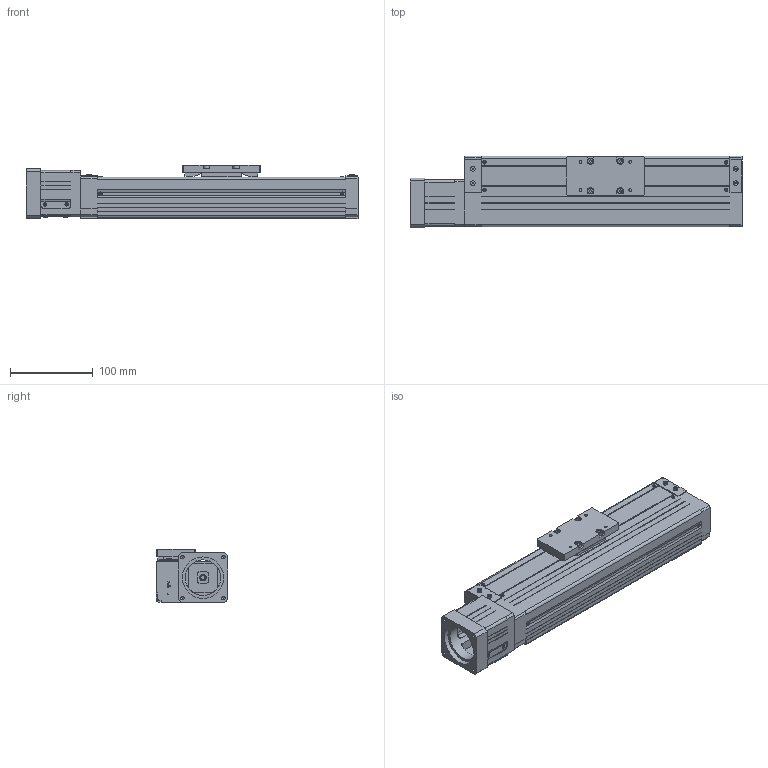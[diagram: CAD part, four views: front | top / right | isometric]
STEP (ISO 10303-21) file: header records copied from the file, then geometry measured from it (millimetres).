
FILE_DESCRIPTION((''),'2;1');
FILE_NAME('D:\製品 (図面)\カタログ用3D\SU部品\SU85×65\ダウンロード用\SU85×65-MB60\SU85×65-200-MB60.stp','2011-07-01T17:41:29',('Tsuchiya'),(''),'Autodesk Inventor 10','Autodesk Inventor 10','');
FILE_SCHEMA(('AUTOMOTIVE_DESIGN { 1 0 10303 214 1 1 1 1 }'));
Length unit declared in the file: millimetre
Products named in the file (3): SU85×65-200-MB60; SU85×65-200-MB601; SU85×65-200-MB602
Assembly tree (2 placements, depth 2):
  SU85×65-200-MB60
    SU85×65-200-MB601
    SU85×65-200-MB602
Bounding box: 401 x 86.45 x 65 mm (x, y, z)
Volume: 812970.8 mm3; surface area: 259128.3 mm2
Topology: 8 solids, 8 shells, 833 faces, 2214 edges, 1434 vertices
Faces by surface type: plane 699, cylinder 100, cone 18, torus 12, bspline 4
Full cylindrical faces by diameter (mm): 3.242 x4, 4 x4, 4.134 x12, 4.5 x4, 5.5 x4, 6 x1, 7 x4, 8 x1, 11.5 x1, 12 x1, 13 x1, 43 x1, 50 x1
Entity records: 25598 total; most frequent: CARTESIAN_POINT 5159, ORIENTED_EDGE 4222, DIRECTION 4000, EDGE_CURVE 2111, VECTOR 1714, LINE 1714, VERTEX_POINT 1404, AXIS2_PLACEMENT_3D 1143
